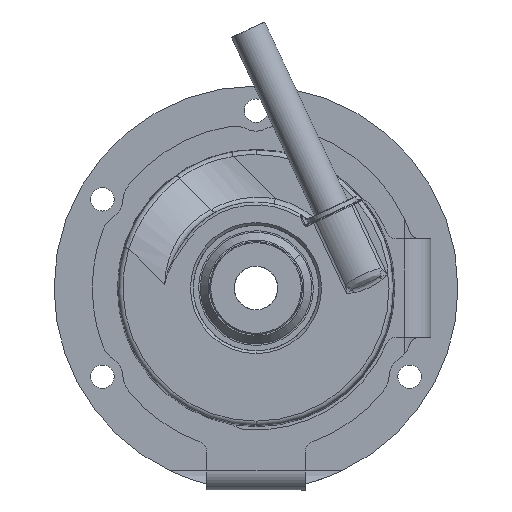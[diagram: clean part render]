
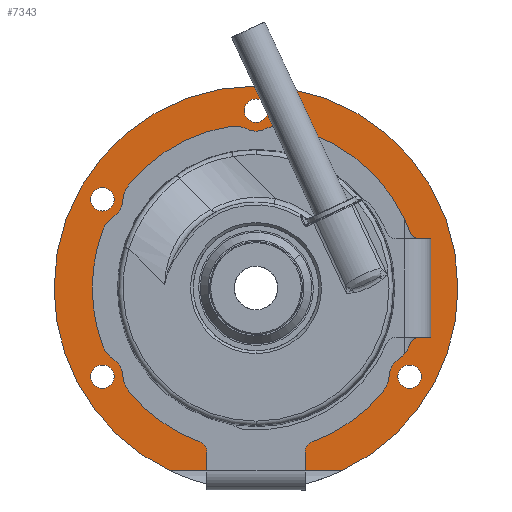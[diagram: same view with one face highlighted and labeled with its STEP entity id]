
A CAD part, left-side view. The second image highlights one B-rep face of the part: STEP entity #7343.
In plain terms, the highlighted planar face has unit normal (-1, 0, 0).
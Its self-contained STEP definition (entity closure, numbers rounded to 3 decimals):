
#4680 = VERTEX_POINT ( 'NONE', #8441 ) ;
#4713 = VERTEX_POINT ( 'NONE', #8487 ) ;
#4715 = EDGE_CURVE ( 'NONE', #4680, #4713, #8486, .T. ) ;
#4741 = EDGE_CURVE ( 'NONE', #4742, #4789, #8589, .T. ) ;
#4742 = VERTEX_POINT ( 'NONE', #8584 ) ;
#4789 = VERTEX_POINT ( 'NONE', #8760 ) ;
#4802 = VERTEX_POINT ( 'NONE', #8827 ) ;
#4804 = EDGE_CURVE ( 'NONE', #4802, #4834, #8825, .T. ) ;
#4834 = VERTEX_POINT ( 'NONE', #8918 ) ;
#4836 = EDGE_CURVE ( 'NONE', #4834, #4837, #8916, .T. ) ;
#4837 = VERTEX_POINT ( 'NONE', #8917 ) ;
#6087 = EDGE_CURVE ( 'NONE', #6115, #6149, #11334, .T. ) ;
#6115 = VERTEX_POINT ( 'NONE', #11470 ) ;
#6118 = VERTEX_POINT ( 'NONE', #11460 ) ;
#6119 = VERTEX_POINT ( 'NONE', #11459 ) ;
#6126 = EDGE_CURVE ( 'NONE', #6119, #6118, #11490, .T. ) ;
#6136 = VERTEX_POINT ( 'NONE', #11552 ) ;
#6138 = EDGE_CURVE ( 'NONE', #6139, #6136, #11551, .T. ) ;
#6139 = VERTEX_POINT ( 'NONE', #11546 ) ;
#6149 = VERTEX_POINT ( 'NONE', #11527 ) ;
#7261 = VERTEX_POINT ( 'NONE', #11597 ) ;
#7325 = EDGE_LOOP ( 'NONE', ( #7364, #7365 ) ) ;
#7335 = ORIENTED_EDGE ( 'NONE', *, *, #7336, .T. ) ;
#7336 = EDGE_CURVE ( 'NONE', #4789, #4742, #11854, .T. ) ;
#7337 = EDGE_LOOP ( 'NONE', ( #7392, #7425, #7388, #7362 ) ) ;
#7339 = EDGE_CURVE ( 'NONE', #7261, #4837, #11887, .T. ) ;
#7343 = ADVANCED_FACE ( 'NONE', ( #11917, #11912, #11911, #11910, #11909, #11908 ), #11943, .F. ) ;
#7344 = EDGE_LOOP ( 'NONE', ( #7380, #7381 ) ) ;
#7347 = EDGE_CURVE ( 'NONE', #6118, #6119, #11942, .T. ) ;
#7351 = EDGE_CURVE ( 'NONE', #4713, #4680, #11928, .T. ) ;
#7355 = EDGE_CURVE ( 'NONE', #6149, #6115, #11978, .T. ) ;
#7356 = EDGE_CURVE ( 'NONE', #6136, #6139, #11972, .T. ) ;
#7361 = EDGE_CURVE ( 'NONE', #7261, #4802, #12032, .T. ) ;
#7362 = ORIENTED_EDGE ( 'NONE', *, *, #4804, .F. ) ;
#7363 = ORIENTED_EDGE ( 'NONE', *, *, #6138, .T. ) ;
#7364 = ORIENTED_EDGE ( 'NONE', *, *, #6126, .T. ) ;
#7365 = ORIENTED_EDGE ( 'NONE', *, *, #7347, .T. ) ;
#7366 = EDGE_LOOP ( 'NONE', ( #7363, #7372 ) ) ;
#7369 = EDGE_LOOP ( 'NONE', ( #7373, #7370 ) ) ;
#7370 = ORIENTED_EDGE ( 'NONE', *, *, #7355, .T. ) ;
#7371 = EDGE_LOOP ( 'NONE', ( #7374, #7335 ) ) ;
#7372 = ORIENTED_EDGE ( 'NONE', *, *, #7356, .T. ) ;
#7373 = ORIENTED_EDGE ( 'NONE', *, *, #6087, .T. ) ;
#7374 = ORIENTED_EDGE ( 'NONE', *, *, #4741, .T. ) ;
#7380 = ORIENTED_EDGE ( 'NONE', *, *, #4715, .T. ) ;
#7381 = ORIENTED_EDGE ( 'NONE', *, *, #7351, .T. ) ;
#7388 = ORIENTED_EDGE ( 'NONE', *, *, #4836, .F. ) ;
#7392 = ORIENTED_EDGE ( 'NONE', *, *, #7361, .F. ) ;
#7425 = ORIENTED_EDGE ( 'NONE', *, *, #7339, .T. ) ;
#8441 = CARTESIAN_POINT ( 'NONE',  ( 28.7, 30.296, 16.25 ) ) ;
#8486 = CIRCLE ( 'NONE', #8544, 2.15 ) ;
#8487 = CARTESIAN_POINT ( 'NONE',  ( 28.7, 25.996, 16.25 ) ) ;
#8541 = DIRECTION ( 'NONE',  ( 0., -1., 0. ) ) ;
#8542 = DIRECTION ( 'NONE',  ( 1., 0., 0. ) ) ;
#8543 = CARTESIAN_POINT ( 'NONE',  ( 28.7, 28.146, 16.25 ) ) ;
#8544 = AXIS2_PLACEMENT_3D ( 'NONE', #8543, #8542, #8541 ) ;
#8584 = CARTESIAN_POINT ( 'NONE',  ( 28.7, 2.15, 32.5 ) ) ;
#8585 = DIRECTION ( 'NONE',  ( 0., -1., 0. ) ) ;
#8586 = DIRECTION ( 'NONE',  ( 1., 0., 0. ) ) ;
#8587 = CARTESIAN_POINT ( 'NONE',  ( 28.7, 0., 32.5 ) ) ;
#8588 = AXIS2_PLACEMENT_3D ( 'NONE', #8587, #8586, #8585 ) ;
#8589 = CIRCLE ( 'NONE', #8588, 2.15 ) ;
#8760 = CARTESIAN_POINT ( 'NONE',  ( 28.7, -2.15, 32.5 ) ) ;
#8821 = DIRECTION ( 'NONE',  ( 0., -1., 0. ) ) ;
#8822 = DIRECTION ( 'NONE',  ( 1., 0., 0. ) ) ;
#8823 = CARTESIAN_POINT ( 'NONE',  ( 28.7, 0., 0. ) ) ;
#8824 = AXIS2_PLACEMENT_3D ( 'NONE', #8823, #8822, #8821 ) ;
#8825 = CIRCLE ( 'NONE', #8824, 37. ) ;
#8827 = CARTESIAN_POINT ( 'NONE',  ( 28.7, 37., 0. ) ) ;
#8912 = DIRECTION ( 'NONE',  ( 0., -1., 0. ) ) ;
#8913 = DIRECTION ( 'NONE',  ( 1., 0., 0. ) ) ;
#8914 = CARTESIAN_POINT ( 'NONE',  ( 28.7, 0., 0. ) ) ;
#8915 = AXIS2_PLACEMENT_3D ( 'NONE', #8914, #8913, #8912 ) ;
#8916 = CIRCLE ( 'NONE', #8915, 37. ) ;
#8917 = CARTESIAN_POINT ( 'NONE',  ( 28.7, -15.708, -33.5 ) ) ;
#8918 = CARTESIAN_POINT ( 'NONE',  ( 28.7, -37., 0. ) ) ;
#11330 = DIRECTION ( 'NONE',  ( 0., -1., 0. ) ) ;
#11331 = DIRECTION ( 'NONE',  ( 1., 0., 0. ) ) ;
#11332 = CARTESIAN_POINT ( 'NONE',  ( 28.7, -28.146, -16.25 ) ) ;
#11333 = AXIS2_PLACEMENT_3D ( 'NONE', #11332, #11331, #11330 ) ;
#11334 = CIRCLE ( 'NONE', #11333, 2.15 ) ;
#11459 = CARTESIAN_POINT ( 'NONE',  ( 28.7, 30.296, -16.25 ) ) ;
#11460 = CARTESIAN_POINT ( 'NONE',  ( 28.7, 25.996, -16.25 ) ) ;
#11470 = CARTESIAN_POINT ( 'NONE',  ( 28.7, -25.996, -16.25 ) ) ;
#11481 = DIRECTION ( 'NONE',  ( 0., -1., 0. ) ) ;
#11482 = DIRECTION ( 'NONE',  ( 1., 0., 0. ) ) ;
#11483 = CARTESIAN_POINT ( 'NONE',  ( 28.7, 28.146, -16.25 ) ) ;
#11484 = AXIS2_PLACEMENT_3D ( 'NONE', #11483, #11482, #11481 ) ;
#11490 = CIRCLE ( 'NONE', #11484, 2.15 ) ;
#11527 = CARTESIAN_POINT ( 'NONE',  ( 28.7, -30.296, -16.25 ) ) ;
#11546 = CARTESIAN_POINT ( 'NONE',  ( 28.7, 27.5, 0. ) ) ;
#11547 = DIRECTION ( 'NONE',  ( 0., -1., 0. ) ) ;
#11548 = DIRECTION ( 'NONE',  ( 1., 0., 0. ) ) ;
#11549 = CARTESIAN_POINT ( 'NONE',  ( 28.7, 0., 0. ) ) ;
#11550 = AXIS2_PLACEMENT_3D ( 'NONE', #11549, #11548, #11547 ) ;
#11551 = CIRCLE ( 'NONE', #11550, 27.5 ) ;
#11552 = CARTESIAN_POINT ( 'NONE',  ( 28.7, -27.5, 0. ) ) ;
#11597 = CARTESIAN_POINT ( 'NONE',  ( 28.7, 15.708, -33.5 ) ) ;
#11850 = DIRECTION ( 'NONE',  ( 0., -1., 0. ) ) ;
#11851 = DIRECTION ( 'NONE',  ( 1., 0., 0. ) ) ;
#11852 = CARTESIAN_POINT ( 'NONE',  ( 28.7, 0., 32.5 ) ) ;
#11853 = AXIS2_PLACEMENT_3D ( 'NONE', #11852, #11851, #11850 ) ;
#11854 = CIRCLE ( 'NONE', #11853, 2.15 ) ;
#11884 = DIRECTION ( 'NONE',  ( 0., -1., 0. ) ) ;
#11885 = VECTOR ( 'NONE', #11884, 1000. ) ;
#11886 = CARTESIAN_POINT ( 'NONE',  ( 28.7, -9., -33.5 ) ) ;
#11887 = LINE ( 'NONE', #11886, #11885 ) ;
#11908 = FACE_OUTER_BOUND ( 'NONE', #7337, .T. ) ;
#11909 = FACE_BOUND ( 'NONE', #7371, .T. ) ;
#11910 = FACE_BOUND ( 'NONE', #7369, .T. ) ;
#11911 = FACE_BOUND ( 'NONE', #7366, .T. ) ;
#11912 = FACE_BOUND ( 'NONE', #7325, .T. ) ;
#11917 = FACE_BOUND ( 'NONE', #7344, .T. ) ;
#11926 = CARTESIAN_POINT ( 'NONE',  ( 28.7, 28.146, 16.25 ) ) ;
#11927 = AXIS2_PLACEMENT_3D ( 'NONE', #11926, #11980, #11979 ) ;
#11928 = CIRCLE ( 'NONE', #11927, 2.15 ) ;
#11934 = DIRECTION ( 'NONE',  ( 0., -1., 0. ) ) ;
#11935 = DIRECTION ( 'NONE',  ( 1., 0., 0. ) ) ;
#11936 = CARTESIAN_POINT ( 'NONE',  ( 28.7, 28.146, -16.25 ) ) ;
#11937 = AXIS2_PLACEMENT_3D ( 'NONE', #11936, #11935, #11934 ) ;
#11938 = DIRECTION ( 'NONE',  ( 0., -1., 0. ) ) ;
#11939 = DIRECTION ( 'NONE',  ( 1., 0., 0. ) ) ;
#11940 = CARTESIAN_POINT ( 'NONE',  ( 28.7, 0., 0. ) ) ;
#11941 = AXIS2_PLACEMENT_3D ( 'NONE', #11940, #11939, #11938 ) ;
#11942 = CIRCLE ( 'NONE', #11937, 2.15 ) ;
#11943 = PLANE ( 'NONE',  #11941 ) ;
#11968 = DIRECTION ( 'NONE',  ( 0., -1., 0. ) ) ;
#11969 = DIRECTION ( 'NONE',  ( 1., 0., 0. ) ) ;
#11970 = CARTESIAN_POINT ( 'NONE',  ( 28.7, 0., 0. ) ) ;
#11971 = AXIS2_PLACEMENT_3D ( 'NONE', #11970, #11969, #11968 ) ;
#11972 = CIRCLE ( 'NONE', #11971, 27.5 ) ;
#11974 = DIRECTION ( 'NONE',  ( 0., -1., 0. ) ) ;
#11975 = DIRECTION ( 'NONE',  ( 1., 0., 0. ) ) ;
#11976 = CARTESIAN_POINT ( 'NONE',  ( 28.7, -28.146, -16.25 ) ) ;
#11977 = AXIS2_PLACEMENT_3D ( 'NONE', #11976, #11975, #11974 ) ;
#11978 = CIRCLE ( 'NONE', #11977, 2.15 ) ;
#11979 = DIRECTION ( 'NONE',  ( 0., -1., 0. ) ) ;
#11980 = DIRECTION ( 'NONE',  ( 1., 0., 0. ) ) ;
#12027 = DIRECTION ( 'NONE',  ( 0., -1., 0. ) ) ;
#12028 = DIRECTION ( 'NONE',  ( 1., 0., 0. ) ) ;
#12029 = CARTESIAN_POINT ( 'NONE',  ( 28.7, 0., 0. ) ) ;
#12030 = AXIS2_PLACEMENT_3D ( 'NONE', #12029, #12028, #12027 ) ;
#12032 = CIRCLE ( 'NONE', #12030, 37. ) ;
